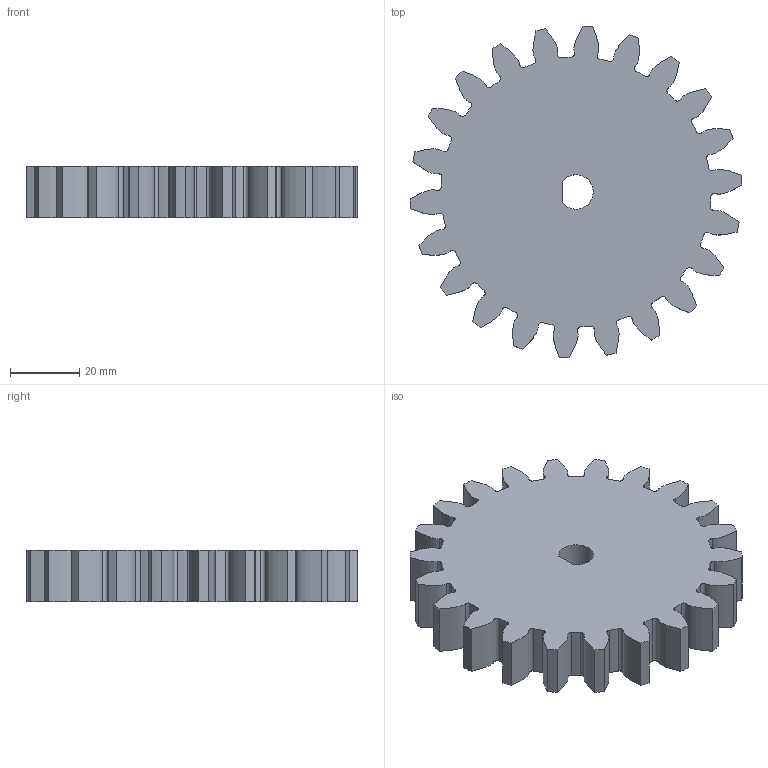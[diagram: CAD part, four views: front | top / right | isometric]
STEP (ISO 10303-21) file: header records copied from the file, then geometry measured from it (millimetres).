
FILE_DESCRIPTION (( 'STEP AP203' ), '1' );
FILE_NAME ('Pignon denture droite m=4 Z=22.STEP', '2025-09-18T12:04:05', ( '' ), ( '' ), 'SwSTEP 2.0', 'SolidWorks 2019', '' );
FILE_SCHEMA (( 'CONFIG_CONTROL_DESIGN' ));
Length unit declared in the file: millimetre
Products named in the file (1): Pignon denture droite m=4 Z=22
Bounding box: 95.92 x 95.92 x 15 mm (x, y, z)
Volume: 88100.6 mm3; surface area: 20727.5 mm2
Topology: 1 solids, 1 shells, 148 faces, 438 edges, 292 vertices
Faces by surface type: cylinder 101, bspline 44, plane 3
Entity records: 5741 total; most frequent: CARTESIAN_POINT 1803, ORIENTED_EDGE 876, DIRECTION 762, EDGE_CURVE 438, AXIS2_PLACEMENT_3D 307, VERTEX_POINT 292, CIRCLE 202, EDGE_LOOP 150
